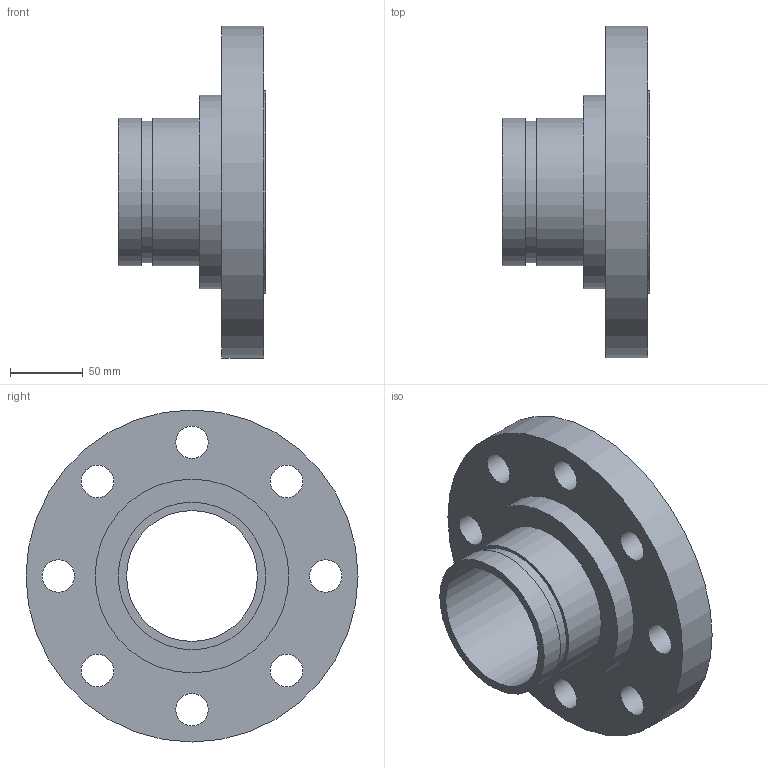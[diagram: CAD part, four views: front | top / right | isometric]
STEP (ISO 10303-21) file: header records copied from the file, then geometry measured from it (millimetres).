
FILE_DESCRIPTION(/* description */ ('VIC FLANGE ADAPTER No 46R','CAx-IF Rec.Pracs.---Representation and Presentation of Product Manufacturing Information (PMI)---4.0---2014-10-13'),/* implementation_level */ '2;1');
FILE_NAME(/* name */ 'C:\Users\kkamble\AppData\Roaming\Autodesk\ApplicationPlugins\Back Up\Victaulic_IPS_Flanged Adapter Nipple_CL 300 RF_No 46R (OGSxFLG)\Victaulic_IPS_Flanged Adapter Nipple_CL 300 RF_No 46R (OGSxFLG)_3.5 (90).stp',/* time_stamp */ '2020-07-26T22:25:46+06:00',/* author */ ('CONSTRUCTION PIPING SERVICES'),/* organization */ ('Victaulic'),/* preprocessor_version */ 'ST-DEVELOPER v17.2',/* originating_system */ 'Autodesk Inventor 2019',/* authorisation */ '');
FILE_SCHEMA (('AP242_MANAGED_MODEL_BASED_3D_ENGINEERING_MIM_LF { 1 0 10303 442 1 1 4 }'));
Length unit declared in the file: inch
Products named in the file (1): 046R-03.5
Bounding box: 101.6 x 228.6 x 228.6 mm (x, y, z)
Volume: 1128897.7 mm3; surface area: 154786.4 mm2
Topology: 1 solids, 1 shells, 22 faces, 59 edges, 44 vertices
Faces by surface type: cylinder 15, plane 7
Full cylindrical faces by diameter (mm): 22.352 x8, 90.119 x1, 97.384 x1, 101.6 x2, 133.35 x1, 139.7 x1, 228.6 x1
Entity records: 849 total; most frequent: DIRECTION 149, CARTESIAN_POINT 126, ORIENTED_EDGE 118, AXIS2_PLACEMENT_3D 67, EDGE_CURVE 59, EDGE_LOOP 45, CIRCLE 44, VERTEX_POINT 44
